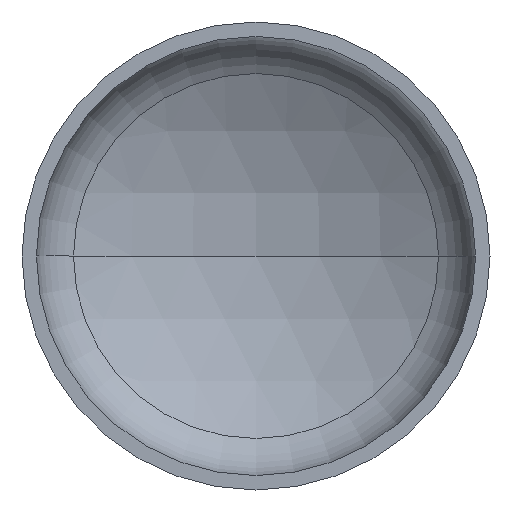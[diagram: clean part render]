
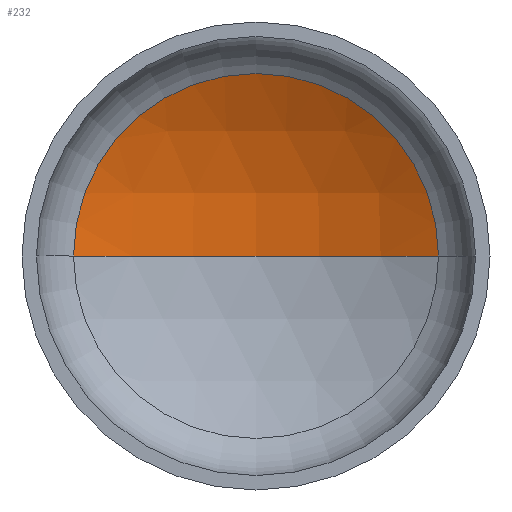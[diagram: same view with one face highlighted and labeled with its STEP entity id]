
A CAD part, front view. The second image highlights one B-rep face of the part: STEP entity #232.
In plain terms, the highlighted spherical face has radius 880 mm.
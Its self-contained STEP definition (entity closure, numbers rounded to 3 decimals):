
#10 = ORIENTED_EDGE ( 'NONE', *, *, #104, .T. ) ;
#26 = AXIS2_PLACEMENT_3D ( 'NONE', #244, #247, #51 ) ;
#28 = EDGE_LOOP ( 'NONE', ( #109, #69, #10 ) ) ;
#35 = VERTEX_POINT ( 'NONE', #289 ) ;
#45 = AXIS2_PLACEMENT_3D ( 'NONE', #202, #230, #386 ) ;
#51 = DIRECTION ( 'NONE',  ( -1., 0., 0. ) ) ;
#52 = AXIS2_PLACEMENT_3D ( 'NONE', #197, #199, #117 ) ;
#54 = AXIS2_PLACEMENT_3D ( 'NONE', #222, #217, #213 ) ;
#60 = VERTEX_POINT ( 'NONE', #250 ) ;
#69 = ORIENTED_EDGE ( 'NONE', *, *, #107, .T. ) ;
#104 = EDGE_CURVE ( 'NONE', #60, #128, #398, .T. ) ;
#107 = EDGE_CURVE ( 'NONE', #35, #60, #287, .T. ) ;
#109 = ORIENTED_EDGE ( 'NONE', *, *, #139, .F. ) ;
#117 = DIRECTION ( 'NONE',  ( -1., 0., 0. ) ) ;
#128 = VERTEX_POINT ( 'NONE', #228 ) ;
#135 = FACE_OUTER_BOUND ( 'NONE', #28, .T. ) ;
#139 = EDGE_CURVE ( 'NONE', #35, #128, #150, .T. ) ;
#150 = CIRCLE ( 'NONE', #45, 880. ) ;
#197 = CARTESIAN_POINT ( 'NONE',  ( 0., -509.987, 0. ) ) ;
#199 = DIRECTION ( 'NONE',  ( 0., 0., -1. ) ) ;
#202 = CARTESIAN_POINT ( 'NONE',  ( 0., -509.987, 0. ) ) ;
#213 = DIRECTION ( 'NONE',  ( 1., 0., 0. ) ) ;
#217 = DIRECTION ( 'NONE',  ( 0., -1., 0. ) ) ;
#222 = CARTESIAN_POINT ( 'NONE',  ( 0., 258.448, 0. ) ) ;
#228 = CARTESIAN_POINT ( 'NONE',  ( -428.845, 258.448, 0. ) ) ;
#230 = DIRECTION ( 'NONE',  ( 0., 0., 1. ) ) ;
#232 = ADVANCED_FACE ( 'NONE', ( #135 ), #330, .F. ) ;
#244 = CARTESIAN_POINT ( 'NONE',  ( 0., -509.987, 0. ) ) ;
#247 = DIRECTION ( 'NONE',  ( 0., 0., -1. ) ) ;
#250 = CARTESIAN_POINT ( 'NONE',  ( 428.845, 258.448, 0. ) ) ;
#287 = CIRCLE ( 'NONE', #52, 880. ) ;
#289 = CARTESIAN_POINT ( 'NONE',  ( 0., 370.013, 0. ) ) ;
#330 = SPHERICAL_SURFACE ( 'NONE', #26, 880. ) ;
#386 = DIRECTION ( 'NONE',  ( 1., 0., 0. ) ) ;
#398 = CIRCLE ( 'NONE', #54, 428.845 ) ;
